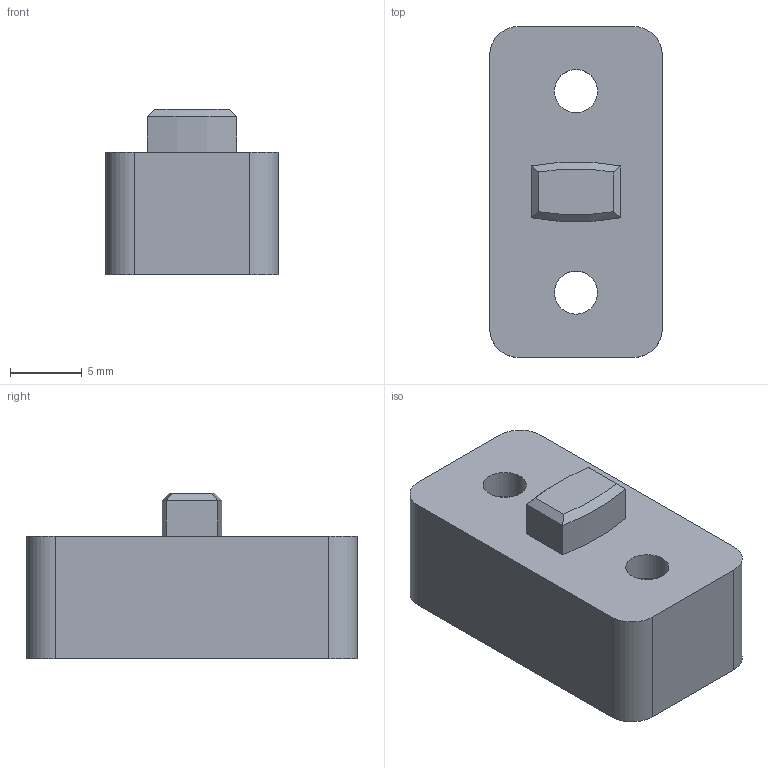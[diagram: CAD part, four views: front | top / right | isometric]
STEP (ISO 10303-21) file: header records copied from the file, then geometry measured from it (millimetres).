
FILE_DESCRIPTION((''),'2;1');
FILE_NAME('S:\DWG\Datenaustausch_mit_Kunden\sonstige\1164010.stp','2008-07-04T11:18:09',('Wittkmper'),(''),'Autodesk Inventor 11','Autodesk Inventor 11','');
FILE_SCHEMA(('AUTOMOTIVE_DESIGN { 1 0 10303 214 1 1 1 1 }'));
Length unit declared in the file: millimetre
Products named in the file (1): 1164010
Bounding box: 12 x 23 x 11.5 mm (x, y, z)
Volume: 1394.9 mm3; surface area: 1501.9 mm2
Topology: 1 solids, 1 shells, 30 faces, 74 edges, 48 vertices
Faces by surface type: plane 16, cylinder 12, cone 2
Full cylindrical faces by diameter (mm): 3 x2
Entity records: 917 total; most frequent: CARTESIAN_POINT 163, DIRECTION 156, ORIENTED_EDGE 144, EDGE_CURVE 72, AXIS2_PLACEMENT_3D 57, VERTEX_POINT 48, VECTOR 42, LINE 42
